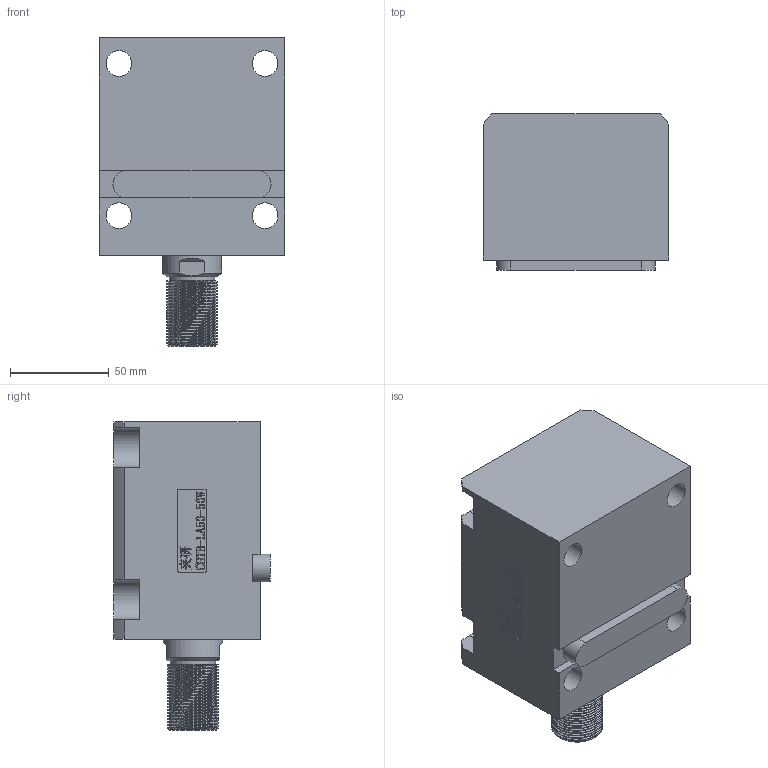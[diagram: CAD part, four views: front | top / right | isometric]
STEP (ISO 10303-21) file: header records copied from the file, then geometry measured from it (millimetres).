
FILE_DESCRIPTION(/* description */ (''),/* implementation_level */ '2;1');
FILE_NAME(/* name */ 'CHTB-LA50-50W.stp',/* time_stamp */ '2022-04-29T17:59:39+08:00',/* author */ (''),/* organization */ (''),/* preprocessor_version */ 'ST-DEVELOPER v16.7',/* originating_system */ 'SIEMENS PLM Software NX 12.0',/* authorisation */ '');
FILE_SCHEMA (('AUTOMOTIVE_DESIGN { 1 0 10303 214 3 1 1 1 }'));
Length unit declared in the file: millimetre
Products named in the file (1): CHTB-LA50-50W
Bounding box: 94 x 79 x 156 mm (x, y, z)
Volume: 672238.1 mm3; surface area: 115919.2 mm2
Topology: 3 solids, 3 shells, 434 faces, 1275 edges, 889 vertices
Faces by surface type: plane 287, extrusion 76, cylinder 40, torus 11, cone 10, bspline 10
Full cylindrical faces by diameter (mm): 4 x2, 5 x2, 10.7 x2, 13 x4, 23 x1, 30 x2, 39 x1, 46 x1, 50 x5, 59 x1
Entity records: 23550 total; most frequent: CARTESIAN_POINT 10587, ORIENTED_EDGE 2440, DIRECTION 1770, EDGE_CURVE 1220, VERTEX_POINT 881, VECTOR 874, LINE 798, EDGE_LOOP 535
